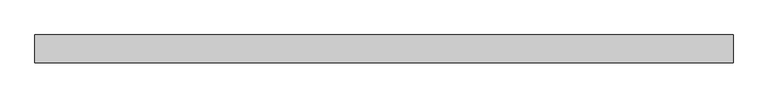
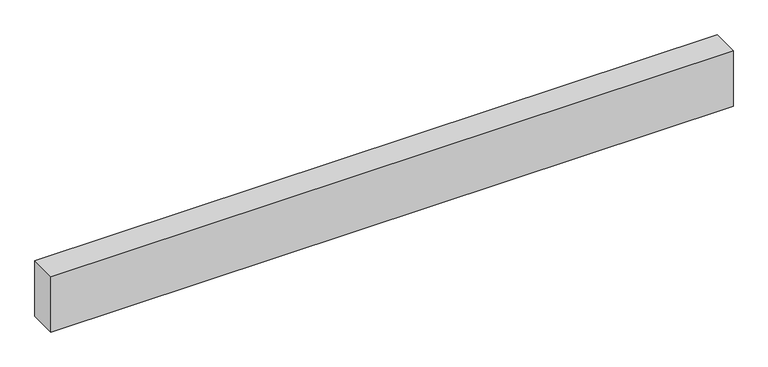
"""IFC4 building model written with IfcOpenShell, lengths in millimetres: proxy geometry."""

from ifc_helpers import new_model, si_unit, frame, origin, place, context, project, spatial, polyline, outline, extrude, source, transform, mapped, element, save


def structural_framing_03c9d15c(model_context):
    return source(origin(), model_context, "Body", "SweptSolid", [
        extrude(outline(polyline([(-1745.0, -70.0), (-1745.0, 70.0), (1745.0, 70.0), (1745.0, -70.0), (-1745.0, -70.0)])), frame((0.0, 0.0, -300.0), z_axis=(0.0, 0.0, 1.0), x_axis=(1.0, 0.0, 0.0)), (0.0, 0.0, 1.0), 300.0),
    ])


if __name__ == "__main__":
    model = new_model("IFC4")
    model_context = context("Model", 3, world=origin())
    ifc_project = project(units=[si_unit("LENGTHUNIT", "METRE", prefix="MILLI")], contexts=[model_context])
    site = spatial("IfcSite", under=ifc_project)
    building = spatial("IfcBuilding", under=site)
    placement = place(None, origin())
    structural_framing_shape = structural_framing_03c9d15c(model_context)
    element("IfcBuildingElementProxy", 1, Name="Structural Framing", at=placement, inside=building, context=model_context, shape_type="MappedRepresentation", body=[
        mapped(structural_framing_shape, transform((0.0, 0.0, 0.0), x_axis=(1.0, 0.0, 0.0), y_axis=(0.0, 1.0, 0.0), z_axis=(0.0, 0.0, 1.0))),
    ])
    save(model, "model.ifc")
